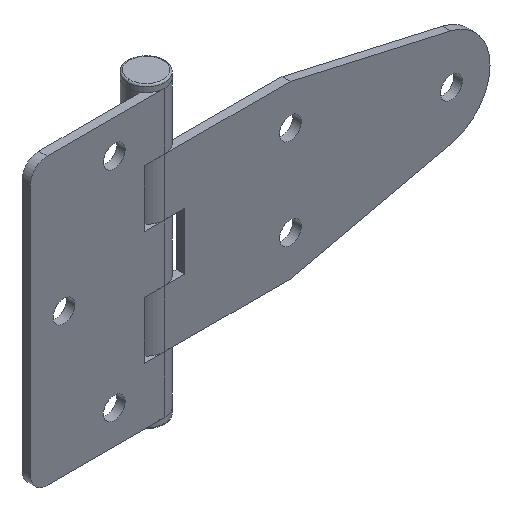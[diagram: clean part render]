
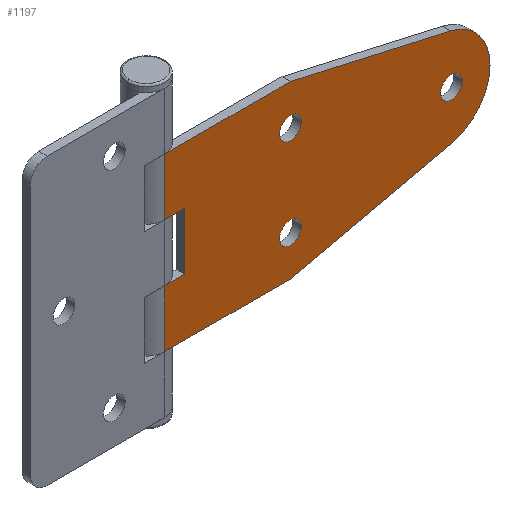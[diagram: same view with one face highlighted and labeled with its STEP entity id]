
A CAD part, isometric view. The second image highlights one B-rep face of the part: STEP entity #1197.
In plain terms, the highlighted planar face has unit normal (0, -1, 0).
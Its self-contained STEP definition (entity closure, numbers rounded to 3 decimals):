
#6 = EDGE_CURVE ( 'NONE', #959, #1444, #1174, .T. ) ;
#23 = CARTESIAN_POINT ( 'NONE',  ( 4.213, 0.904, -4.21 ) ) ;
#34 = VERTEX_POINT ( 'NONE', #2233 ) ;
#60 = CARTESIAN_POINT ( 'NONE',  ( -24.037, 0.904, -26.21 ) ) ;
#61 = CARTESIAN_POINT ( 'NONE',  ( -30.037, 0.904, -9.21 ) ) ;
#63 = AXIS2_PLACEMENT_3D ( 'NONE', #1004, #869, #2380 ) ;
#78 = AXIS2_PLACEMENT_3D ( 'NONE', #895, #691, #1462 ) ;
#80 = CARTESIAN_POINT ( 'NONE',  ( 10.713, 0.904, -4.21 ) ) ;
#143 = DIRECTION ( 'NONE',  ( -0.975, 0., -0.222 ) ) ;
#144 = DIRECTION ( 'NONE',  ( 0., 1., 0. ) ) ;
#182 = LINE ( 'NONE', #1921, #1772 ) ;
#207 = CIRCLE ( 'NONE', #1303, 3.25 ) ;
#208 = VECTOR ( 'NONE', #263, 1000. ) ;
#227 = EDGE_CURVE ( 'NONE', #377, #1036, #1507, .T. ) ;
#263 = DIRECTION ( 'NONE',  ( -1., 0., 0. ) ) ;
#270 = CIRCLE ( 'NONE', #849, 15. ) ;
#293 = CARTESIAN_POINT ( 'NONE',  ( -30.037, 0.904, -26.21 ) ) ;
#306 = VECTOR ( 'NONE', #1790, 1000. ) ;
#336 = EDGE_CURVE ( 'NONE', #547, #699, #182, .T. ) ;
#351 = DIRECTION ( 'NONE',  ( 0., 1., 0. ) ) ;
#358 = EDGE_CURVE ( 'NONE', #34, #488, #2517, .T. ) ;
#374 = CARTESIAN_POINT ( 'NONE',  ( -30.037, 0.904, 7.79 ) ) ;
#377 = VERTEX_POINT ( 'NONE', #1531 ) ;
#378 = DIRECTION ( 'NONE',  ( 1., 0., 0. ) ) ;
#443 = VECTOR ( 'NONE', #2141, 1000. ) ;
#454 = CARTESIAN_POINT ( 'NONE',  ( -30.037, 0.904, -43.21 ) ) ;
#488 = VERTEX_POINT ( 'NONE', #1034 ) ;
#501 = CARTESIAN_POINT ( 'NONE',  ( 58.713, 0.904, -17.71 ) ) ;
#510 = CARTESIAN_POINT ( 'NONE',  ( -24.037, 0.904, -9.21 ) ) ;
#513 = EDGE_CURVE ( 'NONE', #1544, #921, #207, .T. ) ;
#533 = VECTOR ( 'NONE', #143, 1000. ) ;
#538 = CARTESIAN_POINT ( 'NONE',  ( -30.037, 0.904, -9.21 ) ) ;
#547 = VERTEX_POINT ( 'NONE', #60 ) ;
#568 = CARTESIAN_POINT ( 'NONE',  ( 7.463, 0.904, -4.21 ) ) ;
#576 = EDGE_LOOP ( 'NONE', ( #2357, #1117, #1184, #1589, #1686, #1529, #1376, #1060, #2096, #1038, #1028 ) ) ;
#588 = FACE_BOUND ( 'NONE', #2080, .T. ) ;
#596 = DIRECTION ( 'NONE',  ( 1., 0., 0. ) ) ;
#602 = LINE ( 'NONE', #2149, #306 ) ;
#687 = VECTOR ( 'NONE', #2259, 1000. ) ;
#691 = DIRECTION ( 'NONE',  ( 0., -1., 0. ) ) ;
#695 = AXIS2_PLACEMENT_3D ( 'NONE', #924, #1908, #1081 ) ;
#699 = VERTEX_POINT ( 'NONE', #510 ) ;
#716 = CARTESIAN_POINT ( 'NONE',  ( 66.963, 0.904, -17.71 ) ) ;
#762 = ORIENTED_EDGE ( 'NONE', *, *, #6, .F. ) ;
#804 = ORIENTED_EDGE ( 'NONE', *, *, #2425, .F. ) ;
#808 = EDGE_CURVE ( 'NONE', #488, #2252, #270, .T. ) ;
#825 = LINE ( 'NONE', #1786, #1576 ) ;
#849 = AXIS2_PLACEMENT_3D ( 'NONE', #2187, #1021, #1413 ) ;
#869 = DIRECTION ( 'NONE',  ( 0., -1., 0. ) ) ;
#895 = CARTESIAN_POINT ( 'NONE',  ( 7.463, 0.904, -31.21 ) ) ;
#917 = VECTOR ( 'NONE', #2407, 1000. ) ;
#921 = VERTEX_POINT ( 'NONE', #23 ) ;
#924 = CARTESIAN_POINT ( 'NONE',  ( 55.463, 0.904, -17.71 ) ) ;
#957 = PLANE ( 'NONE',  #2383 ) ;
#959 = VERTEX_POINT ( 'NONE', #1618 ) ;
#964 = DIRECTION ( 'NONE',  ( 0., 0., 1. ) ) ;
#992 = EDGE_CURVE ( 'NONE', #2408, #2444, #602, .T. ) ;
#1004 = CARTESIAN_POINT ( 'NONE',  ( 7.463, 0.904, -31.21 ) ) ;
#1021 = DIRECTION ( 'NONE',  ( 0., 1., 0. ) ) ;
#1028 = ORIENTED_EDGE ( 'NONE', *, *, #1737, .F. ) ;
#1034 = CARTESIAN_POINT ( 'NONE',  ( 55.289, 0.904, -3.084 ) ) ;
#1036 = VERTEX_POINT ( 'NONE', #293 ) ;
#1038 = ORIENTED_EDGE ( 'NONE', *, *, #336, .F. ) ;
#1041 = CARTESIAN_POINT ( 'NONE',  ( 52.213, 0.904, -17.71 ) ) ;
#1060 = ORIENTED_EDGE ( 'NONE', *, *, #992, .F. ) ;
#1075 = VERTEX_POINT ( 'NONE', #1248 ) ;
#1081 = DIRECTION ( 'NONE',  ( 1., 0., 0. ) ) ;
#1087 = EDGE_LOOP ( 'NONE', ( #2446, #2498 ) ) ;
#1105 = VERTEX_POINT ( 'NONE', #1497 ) ;
#1117 = ORIENTED_EDGE ( 'NONE', *, *, #2008, .F. ) ;
#1127 = CARTESIAN_POINT ( 'NONE',  ( 55.463, 0.904, -17.71 ) ) ;
#1140 = FACE_OUTER_BOUND ( 'NONE', #576, .T. ) ;
#1143 = CIRCLE ( 'NONE', #78, 3.25 ) ;
#1148 = DIRECTION ( 'NONE',  ( 0., -1., 0. ) ) ;
#1174 = CIRCLE ( 'NONE', #63, 3.25 ) ;
#1184 = ORIENTED_EDGE ( 'NONE', *, *, #2376, .F. ) ;
#1189 = EDGE_CURVE ( 'NONE', #2146, #1485, #1850, .T. ) ;
#1197 = ADVANCED_FACE ( 'NONE', ( #1140, #1339, #2323, #588 ), #957, .F. ) ;
#1234 = CARTESIAN_POINT ( 'NONE',  ( 7.463, 0.904, -4.21 ) ) ;
#1237 = CARTESIAN_POINT ( 'NONE',  ( -30.037, 0.904, 7.79 ) ) ;
#1248 = CARTESIAN_POINT ( 'NONE',  ( 7.463, 0.904, -43.21 ) ) ;
#1303 = AXIS2_PLACEMENT_3D ( 'NONE', #1234, #1440, #2024 ) ;
#1339 = FACE_BOUND ( 'NONE', #1087, .T. ) ;
#1346 = EDGE_CURVE ( 'NONE', #699, #2408, #2174, .T. ) ;
#1355 = CARTESIAN_POINT ( 'NONE',  ( -30.037, 0.904, 7.79 ) ) ;
#1376 = ORIENTED_EDGE ( 'NONE', *, *, #1445, .F. ) ;
#1399 = CIRCLE ( 'NONE', #2176, 15. ) ;
#1411 = DIRECTION ( 'NONE',  ( -1., 0., 0. ) ) ;
#1413 = DIRECTION ( 'NONE',  ( 1., 0., 0. ) ) ;
#1414 = LINE ( 'NONE', #454, #208 ) ;
#1440 = DIRECTION ( 'NONE',  ( 0., -1., 0. ) ) ;
#1444 = VERTEX_POINT ( 'NONE', #1810 ) ;
#1445 = EDGE_CURVE ( 'NONE', #2444, #34, #2445, .T. ) ;
#1462 = DIRECTION ( 'NONE',  ( 1., 0., 0. ) ) ;
#1480 = AXIS2_PLACEMENT_3D ( 'NONE', #1127, #2309, #1942 ) ;
#1485 = VERTEX_POINT ( 'NONE', #501 ) ;
#1497 = CARTESIAN_POINT ( 'NONE',  ( 55.289, 0.904, -32.337 ) ) ;
#1507 = LINE ( 'NONE', #2464, #687 ) ;
#1529 = ORIENTED_EDGE ( 'NONE', *, *, #358, .F. ) ;
#1531 = CARTESIAN_POINT ( 'NONE',  ( -30.037, 0.904, -43.21 ) ) ;
#1544 = VERTEX_POINT ( 'NONE', #80 ) ;
#1576 = VECTOR ( 'NONE', #2192, 1000. ) ;
#1589 = ORIENTED_EDGE ( 'NONE', *, *, #1797, .F. ) ;
#1601 = CIRCLE ( 'NONE', #2009, 3.25 ) ;
#1618 = CARTESIAN_POINT ( 'NONE',  ( 10.713, 0.904, -31.21 ) ) ;
#1686 = ORIENTED_EDGE ( 'NONE', *, *, #808, .F. ) ;
#1737 = EDGE_CURVE ( 'NONE', #1036, #547, #825, .T. ) ;
#1772 = VECTOR ( 'NONE', #964, 1000. ) ;
#1786 = CARTESIAN_POINT ( 'NONE',  ( -30.037, 0.904, -26.21 ) ) ;
#1790 = DIRECTION ( 'NONE',  ( 0., 0., 1. ) ) ;
#1797 = EDGE_CURVE ( 'NONE', #2252, #1105, #1399, .T. ) ;
#1810 = CARTESIAN_POINT ( 'NONE',  ( 4.213, 0.904, -31.21 ) ) ;
#1850 = CIRCLE ( 'NONE', #1480, 3.25 ) ;
#1852 = LINE ( 'NONE', #2073, #533 ) ;
#1874 = ORIENTED_EDGE ( 'NONE', *, *, #2452, .F. ) ;
#1897 = CARTESIAN_POINT ( 'NONE',  ( 51.963, 0.904, -17.71 ) ) ;
#1908 = DIRECTION ( 'NONE',  ( 0., -1., 0. ) ) ;
#1921 = CARTESIAN_POINT ( 'NONE',  ( -24.037, 0.904, 7.79 ) ) ;
#1942 = DIRECTION ( 'NONE',  ( 1., 0., 0. ) ) ;
#1981 = ORIENTED_EDGE ( 'NONE', *, *, #513, .F. ) ;
#2008 = EDGE_CURVE ( 'NONE', #1075, #377, #1414, .T. ) ;
#2009 = AXIS2_PLACEMENT_3D ( 'NONE', #568, #1148, #596 ) ;
#2024 = DIRECTION ( 'NONE',  ( 1., 0., 0. ) ) ;
#2073 = CARTESIAN_POINT ( 'NONE',  ( 55.289, 0.904, -32.337 ) ) ;
#2080 = EDGE_LOOP ( 'NONE', ( #762, #804 ) ) ;
#2096 = ORIENTED_EDGE ( 'NONE', *, *, #1346, .F. ) ;
#2141 = DIRECTION ( 'NONE',  ( 0.975, 0., -0.222 ) ) ;
#2146 = VERTEX_POINT ( 'NONE', #1041 ) ;
#2149 = CARTESIAN_POINT ( 'NONE',  ( -30.037, 0.904, 7.79 ) ) ;
#2174 = LINE ( 'NONE', #61, #2348 ) ;
#2176 = AXIS2_PLACEMENT_3D ( 'NONE', #1897, #144, #2423 ) ;
#2187 = CARTESIAN_POINT ( 'NONE',  ( 51.963, 0.904, -17.71 ) ) ;
#2192 = DIRECTION ( 'NONE',  ( 1., 0., 0. ) ) ;
#2233 = CARTESIAN_POINT ( 'NONE',  ( 7.463, 0.904, 7.79 ) ) ;
#2252 = VERTEX_POINT ( 'NONE', #716 ) ;
#2259 = DIRECTION ( 'NONE',  ( 0., 0., 1. ) ) ;
#2309 = DIRECTION ( 'NONE',  ( 0., -1., 0. ) ) ;
#2323 = FACE_BOUND ( 'NONE', #2443, .T. ) ;
#2330 = CARTESIAN_POINT ( 'NONE',  ( 7.463, 0.904, 7.79 ) ) ;
#2348 = VECTOR ( 'NONE', #1411, 1000. ) ;
#2357 = ORIENTED_EDGE ( 'NONE', *, *, #227, .F. ) ;
#2370 = CIRCLE ( 'NONE', #695, 3.25 ) ;
#2373 = EDGE_CURVE ( 'NONE', #1485, #2146, #2370, .T. ) ;
#2376 = EDGE_CURVE ( 'NONE', #1105, #1075, #1852, .T. ) ;
#2380 = DIRECTION ( 'NONE',  ( 1., 0., 0. ) ) ;
#2383 = AXIS2_PLACEMENT_3D ( 'NONE', #1355, #351, #378 ) ;
#2407 = DIRECTION ( 'NONE',  ( 1., 0., 0. ) ) ;
#2408 = VERTEX_POINT ( 'NONE', #538 ) ;
#2423 = DIRECTION ( 'NONE',  ( 1., 0., 0. ) ) ;
#2425 = EDGE_CURVE ( 'NONE', #1444, #959, #1143, .T. ) ;
#2443 = EDGE_LOOP ( 'NONE', ( #1981, #1874 ) ) ;
#2444 = VERTEX_POINT ( 'NONE', #374 ) ;
#2445 = LINE ( 'NONE', #1237, #917 ) ;
#2446 = ORIENTED_EDGE ( 'NONE', *, *, #2373, .F. ) ;
#2452 = EDGE_CURVE ( 'NONE', #921, #1544, #1601, .T. ) ;
#2464 = CARTESIAN_POINT ( 'NONE',  ( -30.037, 0.904, 7.79 ) ) ;
#2498 = ORIENTED_EDGE ( 'NONE', *, *, #1189, .F. ) ;
#2517 = LINE ( 'NONE', #2330, #443 ) ;
